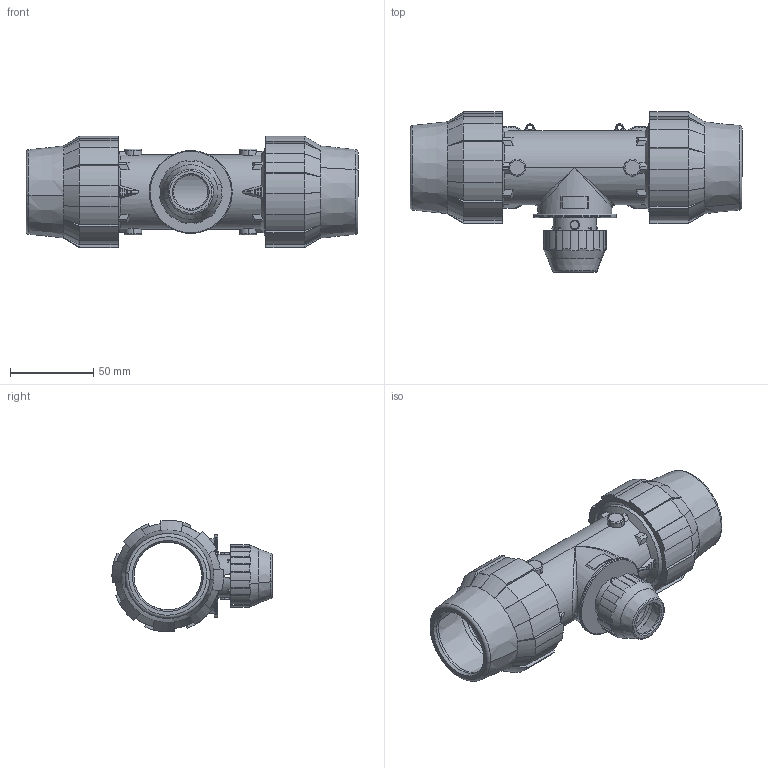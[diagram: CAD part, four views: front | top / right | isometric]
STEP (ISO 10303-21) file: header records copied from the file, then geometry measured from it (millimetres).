
FILE_DESCRIPTION (( 'STEP AP214' ), '1' );
FILE_NAME ('QLTRAL040020.STEP', '2021-05-19T09:47:42', ( '' ), ( '' ), 'SwSTEP 2.0', 'SolidWorks 2021', '' );
FILE_SCHEMA (( 'AUTOMOTIVE_DESIGN' ));
Length unit declared in the file: millimetre
Products named in the file (1): QLTRAL040020
Bounding box: 200 x 96.48 x 67.3 mm (x, y, z)
Surface area: 77619.6 mm2 (no closed solid volume)
Topology: 0 solids, 16 shells, 460 faces, 1389 edges, 905 vertices
Faces by surface type: cylinder 191, plane 135, bspline 56, cone 44, torus 34
Entity records: 27195 total; most frequent: CARTESIAN_POINT 10785, ORIENTED_EDGE 2495, DIRECTION 2056, EDGE_CURVE 1385, VERTEX_POINT 905, AXIS2_PLACEMENT_3D 767, VECTOR 522, LINE 522
